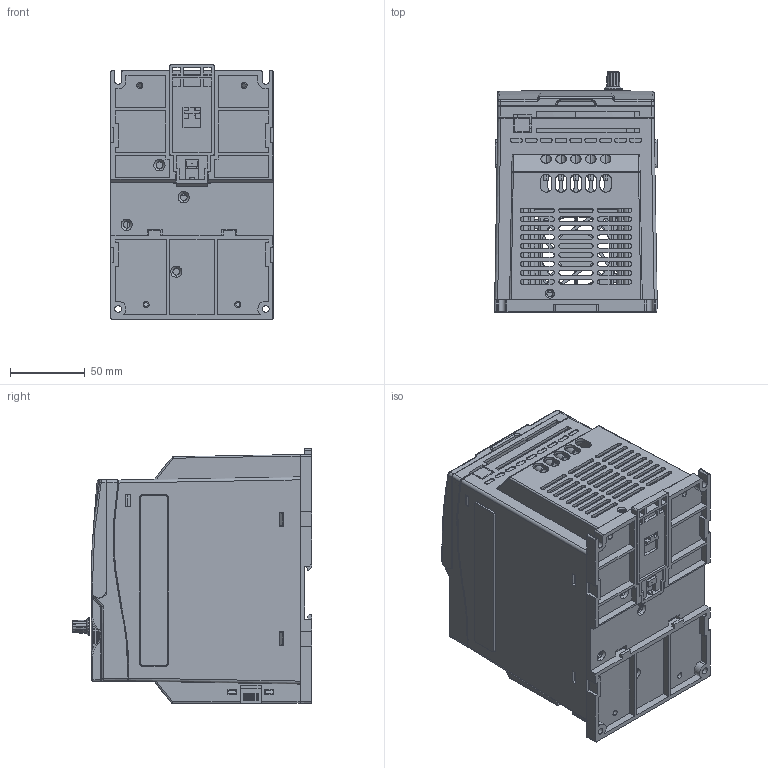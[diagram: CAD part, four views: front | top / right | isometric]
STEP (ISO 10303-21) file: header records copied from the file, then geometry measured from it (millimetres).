
FILE_DESCRIPTION (( 'STEP AP214' ), '1' );
FILE_NAME ('B-H0ﾊ4-220-0-ﾒ; B-H0K75-220-0-ﾒ; B-H1K5-220-0-ﾒ; B-H2K2-380-0-ﾒ; B-H0K75-380-0-ﾒ; B-H1K5-380-0-ﾒ.STEP', '2022-06-04T08:30:22', ( '' ), ( '' ), 'SwSTEP 2.0', 'SolidWorks 2018', '' );
FILE_SCHEMA (( 'AUTOMOTIVE_DESIGN' ));
Length unit declared in the file: millimetre
Products named in the file (16): CDI-D2R2-802___ _____________ _____________^OptiCor B-H0ﾊ4-220-0-ﾒ-0; OptiCor B-H0K75-220-0-ﾒ-0; OptiCor B-H1K5-220-0-ﾒ-0(2)_B-H0ﾊ4-220-0-ﾒ; B-H0K75-220-0-ﾒ; B-H1K5-220-0-ﾒ; B-H2K2-380-0-ﾒ; ~; CDI-D2R2-805___ _____________ _____________^OptiCor B-H0ﾊ4-220-0-ﾒ-0; OptiCor B-H0K75-220-0-ﾒ-0; OptiCor B-H1K5-220-0-ﾒ-0(2)_B-H0ﾊ4-220-0-ﾒ; B-H0K75-220-0-ﾒ; B-H1K5-220-0-ﾒ; B-H2K2-380-0-ﾒ; ~; CDI-D2R2-801___ _____________ _____________^OptiCor B-H0ﾊ4-220-0-ﾒ-0; OptiCor B-H0K75-220-0-ﾒ-0; OptiCor B-H1K5-220-0-ﾒ-0(2)_B-H0ﾊ4-220-0-ﾒ; B-H0K75-220-0-ﾒ; B-H1K5-220-0-ﾒ; B-H2K2-380-0-ﾒ; ~; CDI-D2R2-102_ASM_3^OptiCor B-H0ﾊ4-220-0-ﾒ-0; OptiCor B-H0K75-220-0-ﾒ-0; OptiCor B-H1K5-220-0-ﾒ-0(2)_B-H0ﾊ4-220-0-ﾒ; B-H0K75-220-0-ﾒ; B-H1K5-220-0-ﾒ; B-H2K2-380-0-ﾒ; B-H0K75-380-0-ﾒ; B-H1K5-3~; CDI-D2R2-TM_3___ _____________ _____________^CDI-D2R2-102_ASM_3_OptiCor B-H0ﾊ4-220-0-ﾒ-0; OptiCor B-H0K75-220-0-ﾒ-0; OptiCor B-H1K5-220-0-ﾒ-0(2)_B-H0ﾊ4-220-0-ﾒ; B-H0K75-220-0-ﾒ; B-H1K5-220-0~; CDI-D2R2-811_4___ _____________ _____________^CDI-D2R2-102_ASM_3_OptiCor B-H0ﾊ4-220-0-ﾒ-0; OptiCor B-H0K75-220-0-ﾒ-0; OptiCor B-H1K5-220-0-ﾒ-0(2)_B-H0ﾊ4-220-0-ﾒ; B-H0K75-220-0-ﾒ; B-H1K5-220-~; CDI-D2R2-807_3___ _____________ _____________^CDI-D2R2-102_ASM_3_OptiCor B-H0ﾊ4-220-0-ﾒ-0; OptiCor B-H0K75-220-0-ﾒ-0; OptiCor B-H1K5-220-0-ﾒ-0(2)_B-H0ﾊ4-220-0-ﾒ; B-H0K75-220-0-ﾒ; B-H1K5-220-~; CDI-D2R2-806_3___ _____________ _____________^CDI-D2R2-102_ASM_3_OptiCor B-H0ﾊ4-220-0-ﾒ-0; OptiCor B-H0K75-220-0-ﾒ-0; OptiCor B-H1K5-220-0-ﾒ-0(2)_B-H0ﾊ4-220-0-ﾒ; B-H0K75-220-0-ﾒ; B-H1K5-220-~; CDI-D2R2-808_ASM^OptiCor B-H0ﾊ4-220-0-ﾒ-0; OptiCor B-H0K75-220-0-ﾒ-0; OptiCor B-H1K5-220-0-ﾒ-0(2)_B-H0ﾊ4-220-0-ﾒ; B-H0K75-220-0-ﾒ; B-H1K5-220-0-ﾒ; B-H2K2-380-0-ﾒ; B-H0K75-380-0-ﾒ; B-H1K5-380~; H5015___ _____________ _____________^CDI-D2R2-808_ASM_OptiCor B-H0ﾊ4-220-0-ﾒ-0; OptiCor B-H0K75-220-0-ﾒ-0; OptiCor B-H1K5-220-0-ﾒ-0(2)_B-H0ﾊ4-220-0-ﾒ; B-H0K75-220-0-ﾒ; B-H1K5-220-0-ﾒ; B-H2K2~; CDI-D2R2-808___ _____________ _____________^CDI-D2R2-808_ASM_OptiCor B-H0ﾊ4-220-0-ﾒ-0; OptiCor B-H0K75-220-0-ﾒ-0; OptiCor B-H1K5-220-0-ﾒ-0(2)_B-H0ﾊ4-220-0-ﾒ; B-H0K75-220-0-ﾒ; B-H1K5-220-0-ﾒ;~; B-H0ﾊ4-220-0-ﾒ; B-H0K75-220-0-ﾒ; B-H1K5-220-0-ﾒ; B-H2K2-380-0-ﾒ; B-H0K75-380-0-ﾒ; B-H1K5-380-0-ﾒ; OptiCor B-H0ﾊ4-220-0-ﾒ-0; OptiCor B-H0K75-220-0-ﾒ-0; OptiCor B-H1K5-220-0-ﾒ-0(2)^B-H0ﾊ4-220-0-ﾒ; B-H0K75-220-0-ﾒ; B-H1K5-220-0-ﾒ; B-H2K2-380-0-ﾒ; B-H0K75-380-0-ﾒ; B-H1K5-380-0-ﾒ; CDI-D2R2-804___ _____________ _____________^OptiCor B-H0ﾊ4-220-0-ﾒ-0; OptiCor B-H0K75-220-0-ﾒ-0; OptiCor B-H1K5-220-0-ﾒ-0(2)_B-H0ﾊ4-220-0-ﾒ; B-H0K75-220-0-ﾒ; B-H1K5-220-0-ﾒ; B-H2K2-380-0-ﾒ; ~; CDI-D2R2-803___ _____________ _____________^OptiCor B-H0ﾊ4-220-0-ﾒ-0; OptiCor B-H0K75-220-0-ﾒ-0; OptiCor B-H1K5-220-0-ﾒ-0(2)_B-H0ﾊ4-220-0-ﾒ; B-H0K75-220-0-ﾒ; B-H1K5-220-0-ﾒ; B-H2K2-380-0-ﾒ; ~; CDI-D2R2-809___ _____________ _____________^OptiCor B-H0ﾊ4-220-0-ﾒ-0; OptiCor B-H0K75-220-0-ﾒ-0; OptiCor B-H1K5-220-0-ﾒ-0(2)_B-H0ﾊ4-220-0-ﾒ; B-H0K75-220-0-ﾒ; B-H1K5-220-0-ﾒ; B-H2K2-380-0-ﾒ; ~
Assembly tree (16 placements, depth 4):
  B-H0ﾊ4-220-0-ﾒ; B-H0K75-220-0-ﾒ; B-H1K5-220-0-ﾒ; B-H2K2-380-0-ﾒ; B-H0K75-380-0-ﾒ; B-H1K5-380-0-ﾒ
    OptiCor B-H0ﾊ4-220-0-ﾒ-0; OptiCor B-H0K75-220-0-ﾒ-0; OptiCor B-H1K5-220-0-ﾒ-0(2)^B-H0ﾊ4-220-0-ﾒ; B-H0K75-220-0-ﾒ; B-H1K5-220-0-ﾒ; B-H2K2-380-0-ﾒ; B-H0K75-380-0-ﾒ; B-H1K5-380-0-ﾒ
      CDI-D2R2-808_ASM^OptiCor B-H0ﾊ4-220-0-ﾒ-0; OptiCor B-H0K75-220-0-ﾒ-0; OptiCor B-H1K5-220-0-ﾒ-0(2)_B-H0ﾊ4-220-0-ﾒ; B-H0K75-220-0-ﾒ; B-H1K5-220-0-ﾒ; B-H2K2-380-0-ﾒ; B-H0K75-380-0-ﾒ; B-H1K5-380~
        CDI-D2R2-808___ _____________ _____________^CDI-D2R2-808_ASM_OptiCor B-H0ﾊ4-220-0-ﾒ-0; OptiCor B-H0K75-220-0-ﾒ-0; OptiCor B-H1K5-220-0-ﾒ-0(2)_B-H0ﾊ4-220-0-ﾒ; B-H0K75-220-0-ﾒ; B-H1K5-220-0-ﾒ;~
        H5015___ _____________ _____________^CDI-D2R2-808_ASM_OptiCor B-H0ﾊ4-220-0-ﾒ-0; OptiCor B-H0K75-220-0-ﾒ-0; OptiCor B-H1K5-220-0-ﾒ-0(2)_B-H0ﾊ4-220-0-ﾒ; B-H0K75-220-0-ﾒ; B-H1K5-220-0-ﾒ; B-H2K2~
      CDI-D2R2-102_ASM_3^OptiCor B-H0ﾊ4-220-0-ﾒ-0; OptiCor B-H0K75-220-0-ﾒ-0; OptiCor B-H1K5-220-0-ﾒ-0(2)_B-H0ﾊ4-220-0-ﾒ; B-H0K75-220-0-ﾒ; B-H1K5-220-0-ﾒ; B-H2K2-380-0-ﾒ; B-H0K75-380-0-ﾒ; B-H1K5-3~
        CDI-D2R2-806_3___ _____________ _____________^CDI-D2R2-102_ASM_3_OptiCor B-H0ﾊ4-220-0-ﾒ-0; OptiCor B-H0K75-220-0-ﾒ-0; OptiCor B-H1K5-220-0-ﾒ-0(2)_B-H0ﾊ4-220-0-ﾒ; B-H0K75-220-0-ﾒ; B-H1K5-220-~
        CDI-D2R2-807_3___ _____________ _____________^CDI-D2R2-102_ASM_3_OptiCor B-H0ﾊ4-220-0-ﾒ-0; OptiCor B-H0K75-220-0-ﾒ-0; OptiCor B-H1K5-220-0-ﾒ-0(2)_B-H0ﾊ4-220-0-ﾒ; B-H0K75-220-0-ﾒ; B-H1K5-220-~
        CDI-D2R2-811_4___ _____________ _____________^CDI-D2R2-102_ASM_3_OptiCor B-H0ﾊ4-220-0-ﾒ-0; OptiCor B-H0K75-220-0-ﾒ-0; OptiCor B-H1K5-220-0-ﾒ-0(2)_B-H0ﾊ4-220-0-ﾒ; B-H0K75-220-0-ﾒ; B-H1K5-220-~
        CDI-D2R2-TM_3___ _____________ _____________^CDI-D2R2-102_ASM_3_OptiCor B-H0ﾊ4-220-0-ﾒ-0; OptiCor B-H0K75-220-0-ﾒ-0; OptiCor B-H1K5-220-0-ﾒ-0(2)_B-H0ﾊ4-220-0-ﾒ; B-H0K75-220-0-ﾒ; B-H1K5-220-0~
      CDI-D2R2-801___ _____________ _____________^OptiCor B-H0ﾊ4-220-0-ﾒ-0; OptiCor B-H0K75-220-0-ﾒ-0; OptiCor B-H1K5-220-0-ﾒ-0(2)_B-H0ﾊ4-220-0-ﾒ; B-H0K75-220-0-ﾒ; B-H1K5-220-0-ﾒ; B-H2K2-380-0-ﾒ; ~
      CDI-D2R2-805___ _____________ _____________^OptiCor B-H0ﾊ4-220-0-ﾒ-0; OptiCor B-H0K75-220-0-ﾒ-0; OptiCor B-H1K5-220-0-ﾒ-0(2)_B-H0ﾊ4-220-0-ﾒ; B-H0K75-220-0-ﾒ; B-H1K5-220-0-ﾒ; B-H2K2-380-0-ﾒ; ~
      CDI-D2R2-802___ _____________ _____________^OptiCor B-H0ﾊ4-220-0-ﾒ-0; OptiCor B-H0K75-220-0-ﾒ-0; OptiCor B-H1K5-220-0-ﾒ-0(2)_B-H0ﾊ4-220-0-ﾒ; B-H0K75-220-0-ﾒ; B-H1K5-220-0-ﾒ; B-H2K2-380-0-ﾒ; ~
      CDI-D2R2-809___ _____________ _____________^OptiCor B-H0ﾊ4-220-0-ﾒ-0; OptiCor B-H0K75-220-0-ﾒ-0; OptiCor B-H1K5-220-0-ﾒ-0(2)_B-H0ﾊ4-220-0-ﾒ; B-H0K75-220-0-ﾒ; B-H1K5-220-0-ﾒ; B-H2K2-380-0-ﾒ; ~  x2
      CDI-D2R2-803___ _____________ _____________^OptiCor B-H0ﾊ4-220-0-ﾒ-0; OptiCor B-H0K75-220-0-ﾒ-0; OptiCor B-H1K5-220-0-ﾒ-0(2)_B-H0ﾊ4-220-0-ﾒ; B-H0K75-220-0-ﾒ; B-H1K5-220-0-ﾒ; B-H2K2-380-0-ﾒ; ~
      CDI-D2R2-804___ _____________ _____________^OptiCor B-H0ﾊ4-220-0-ﾒ-0; OptiCor B-H0K75-220-0-ﾒ-0; OptiCor B-H1K5-220-0-ﾒ-0(2)_B-H0ﾊ4-220-0-ﾒ; B-H0K75-220-0-ﾒ; B-H1K5-220-0-ﾒ; B-H2K2-380-0-ﾒ; ~
Bounding box: 109.11 x 161 x 171 mm (x, y, z)
Volume: 315415.3 mm3; surface area: 328724.4 mm2
Topology: 13 solids, 13 shells, 3037 faces, 8325 edges, 5381 vertices
Faces by surface type: plane 1985, cylinder 783, bspline 163, cone 101, torus 5
Entity records: 111089 total; most frequent: CARTESIAN_POINT 37304, ORIENTED_EDGE 16254, DIRECTION 13379, EDGE_CURVE 8127, LINE 5663, VECTOR 5663, VERTEX_POINT 5294, AXIS2_PLACEMENT_3D 3858
